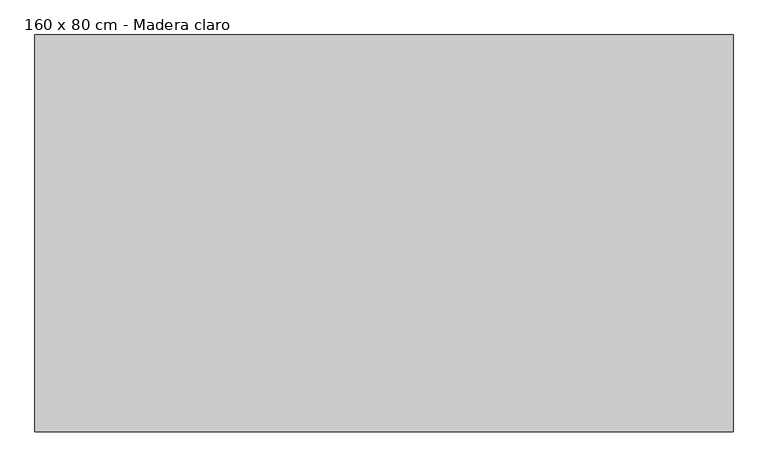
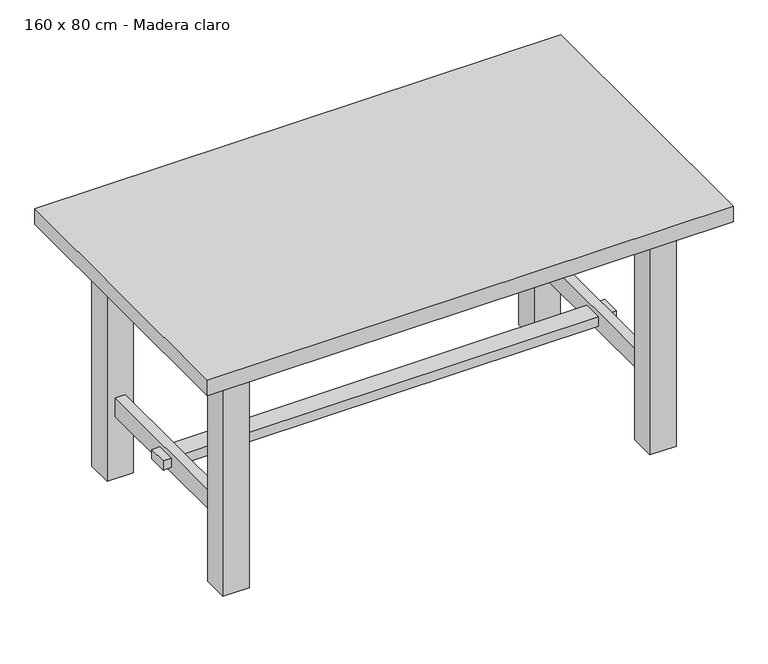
"""IFC4 building model written with IfcOpenShell, lengths in millimetres: furniture geometry, Mesa Comedor 6 personas : 160 x 80 cm - Madera claro."""

from ifc_helpers import new_model, si_unit, frame, origin, origin_with_axes, place, context, project, spatial, polyline, outline, extrude, faceted_brep, source, transform, mapped, element, save


def furniture_160_x_80_cm_madera_claro_7cd3064c(model_context):
    return source(origin(), model_context, "Body", "SolidModel", [
        faceted_brep([(-619.682456, -225.8700593, 260.0), (-619.682456, 304.1299407, 260.0), (-649.682456, 304.1299407, 260.0), (-649.682456, -225.8700593, 260.0), (680.317544, -225.8700593, 260.0), (680.317544, 304.1299407, 260.0), (650.317544, 304.1299407, 260.0), (650.317544, -225.8700593, 260.0), (-619.682456, -225.8700593, 200.0), (-649.682456, -225.8700593, 200.0), (-649.682456, 304.1299407, 200.0), (-619.682456, 304.1299407, 200.0), (680.317544, -225.8700593, 200.0), (650.317544, -225.8700593, 200.0), (650.317544, 304.1299407, 200.0), (680.317544, 304.1299407, 200.0), (-619.682456, 69.1299407, 245.0), (-619.682456, 69.1299407, 215.0), (-619.682456, 9.1299407, 215.0), (-619.682456, 9.1299407, 245.0), (-649.682456, 69.1299407, 215.0), (-649.682456, 69.1299407, 245.0), (-649.682456, 9.1299407, 245.0), (-649.682456, 9.1299407, 215.0), (680.317544, 69.1299407, 245.0), (680.317544, 69.1299407, 215.0), (680.317544, 9.1299407, 215.0), (680.317544, 9.1299407, 245.0), (650.317544, 69.1299407, 215.0), (650.317544, 69.1299407, 245.0), (650.317544, 9.1299407, 245.0), (650.317544, 9.1299407, 215.0), (705.317544, 69.1299407, 215.0), (705.317544, 69.1299407, 245.0), (705.317544, 9.1299407, 245.0), (705.317544, 9.1299407, 215.0), (-674.682456, 69.1299407, 215.0), (-674.682456, 9.1299407, 215.0), (-674.682456, 9.1299407, 245.0), (-674.682456, 69.1299407, 245.0)], [[[0, 1, 2, 3]], [[4, 5, 6, 7]], [[8, 9, 10, 11]], [[12, 13, 14, 15]], [[1, 0, 8, 11], [16, 17, 18, 19]], [[2, 1, 11, 10]], [[3, 2, 10, 9], [20, 21, 22, 23]], [[0, 3, 9, 8]], [[5, 4, 12, 15], [24, 25, 26, 27]], [[6, 5, 15, 14]], [[7, 6, 14, 13], [28, 29, 30, 31]], [[4, 7, 13, 12]], [[32, 33, 34, 35]], [[36, 37, 38, 39]], [[33, 32, 25, 24]], [[36, 39, 21, 20]], [[28, 17, 16, 29]], [[34, 33, 24, 27]], [[39, 38, 22, 21]], [[29, 16, 19, 30]], [[35, 34, 27, 26]], [[38, 37, 23, 22]], [[30, 19, 18, 31]], [[32, 35, 26, 25]], [[37, 36, 20, 23]], [[17, 28, 31, 18]]]),
        extrude(outline(polyline([(815.317544, 494.1299407), (815.317544, -415.8700593), (-784.682456, -415.8700593), (-784.682456, 494.1299407), (815.317544, 494.1299407)])), frame((0.0, 0.0, 750.0), z_axis=(0.0, 0.0, 1.0), x_axis=(1.0, 0.0, 0.0)), (0.0, 0.0, 1.0), 50.0),
        extrude(outline(polyline([(625.317544, 359.1299407), (625.317544, 329.1299407), (-594.682456, 329.1299407), (-594.682456, 359.1299407), (625.317544, 359.1299407)])), frame((0.0, 0.0, 670.0), z_axis=(0.0, 0.0, 1.0), x_axis=(1.0, 0.0, 0.0)), (0.0, 0.0, 1.0), 80.0),
        extrude(outline(polyline([(625.317544, -250.8700593), (625.317544, -280.8700593), (-594.682456, -280.8700593), (-594.682456, -250.8700593), (625.317544, -250.8700593)])), frame((0.0, 0.0, 670.0), z_axis=(0.0, 0.0, 1.0), x_axis=(1.0, 0.0, 0.0)), (0.0, 0.0, 1.0), 80.0),
        extrude(outline(polyline([(-619.682456, -225.8700593), (-649.682456, -225.8700593), (-649.682456, 304.1299407), (-619.682456, 304.1299407), (-619.682456, -225.8700593)])), frame((0.0, 0.0, 670.0), z_axis=(0.0, 0.0, 1.0), x_axis=(1.0, 0.0, 0.0)), (0.0, 0.0, 1.0), 80.0),
        extrude(outline(polyline([(680.317544, -225.8700593), (650.317544, -225.8700593), (650.317544, 304.1299407), (680.317544, 304.1299407), (680.317544, -225.8700593)])), frame((0.0, 0.0, 670.0), z_axis=(0.0, 0.0, 1.0), x_axis=(1.0, 0.0, 0.0)), (0.0, 0.0, 1.0), 80.0),
        extrude(outline(polyline([(-594.682456, 304.1299407), (-674.682456, 304.1299407), (-674.682456, 384.1299407), (-594.682456, 384.1299407), (-594.682456, 304.1299407)])), origin_with_axes(), (0.0, 0.0, 1.0), 750.0),
        extrude(outline(polyline([(-674.682456, -225.8700593), (-594.682456, -225.8700593), (-594.682456, -305.8700593), (-674.682456, -305.8700593), (-674.682456, -225.8700593)])), origin_with_axes(), (0.0, 0.0, 1.0), 750.0),
        extrude(outline(polyline([(705.317544, -225.8700593), (705.317544, -305.8700593), (625.317544, -305.8700593), (625.317544, -225.8700593), (705.317544, -225.8700593)])), origin_with_axes(), (0.0, 0.0, 1.0), 750.0),
        extrude(outline(polyline([(705.317544, 304.1299407), (625.317544, 304.1299407), (625.317544, 384.1299407), (705.317544, 384.1299407), (705.317544, 304.1299407)])), origin_with_axes(), (0.0, 0.0, 1.0), 750.0),
    ])


if __name__ == "__main__":
    model = new_model("IFC4")
    model_context = context("Model", 3, world=origin())
    ifc_project = project(units=[si_unit("LENGTHUNIT", "METRE", prefix="MILLI")], contexts=[model_context])
    site = spatial("IfcSite", under=ifc_project)
    building = spatial("IfcBuilding", under=site)
    placement = place(None, origin())
    furniture_160_x_80_cm_madera_claro_shape = furniture_160_x_80_cm_madera_claro_7cd3064c(model_context)
    element("IfcFurniture", 1, ObjectType="Mesa Comedor 6 personas : 160 x 80 cm - Madera claro", at=placement, inside=building, context=model_context, shape_type="MappedRepresentation", body=[
        mapped(furniture_160_x_80_cm_madera_claro_shape, transform((0.0, 0.0, 0.0), x_axis=(1.0, 0.0, 0.0), y_axis=(0.0, 1.0, 0.0), z_axis=(0.0, 0.0, 1.0))),
    ])
    save(model, "model.ifc")
